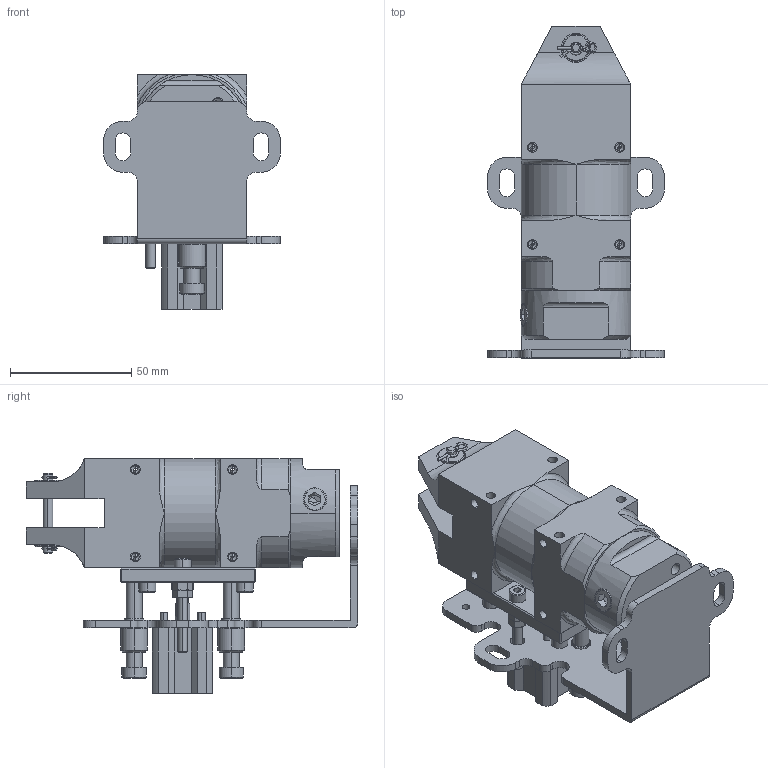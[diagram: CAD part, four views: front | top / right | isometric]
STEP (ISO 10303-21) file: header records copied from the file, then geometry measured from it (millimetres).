
FILE_DESCRIPTION (( 'STEP AP214' ), '1' );
FILE_NAME ('GTNB2010HIKU.STEP', '2019-11-29T08:56:08', ( '微软用户' ), ( '微软中国' ), 'SwSTEP 2.0', 'SolidWorks 2016', '' );
FILE_SCHEMA (( 'AUTOMOTIVE_DESIGN' ));
Length unit declared in the file: millimetre
Products named in the file (1): GTNB2010HIKU
Bounding box: 73 x 136.7 x 96.7 mm (x, y, z)
Topology: 0 solids, 31 shells, 896 faces, 2213 edges, 1342 vertices
Faces by surface type: plane 310, cylinder 305, cone 245, bspline 34, torus 2
Entity records: 35851 total; most frequent: CARTESIAN_POINT 14389, DIRECTION 4309, ORIENTED_EDGE 4125, EDGE_CURVE 2146, AXIS2_PLACEMENT_3D 1692, VERTEX_POINT 1336, EDGE_LOOP 1043, LINE 925
